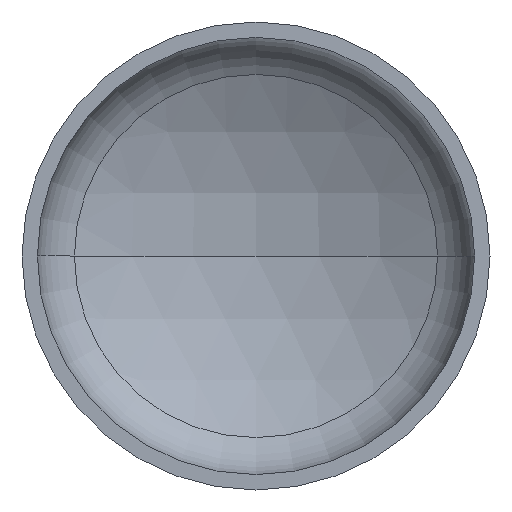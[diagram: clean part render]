
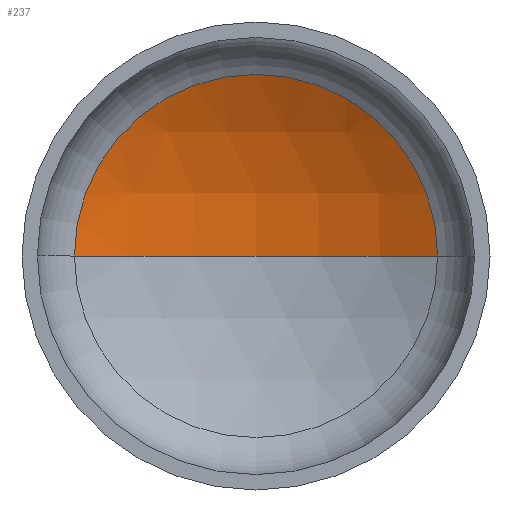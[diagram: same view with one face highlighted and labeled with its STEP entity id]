
A CAD part, front view. The second image highlights one B-rep face of the part: STEP entity #237.
In plain terms, the highlighted spherical face has radius 1120 mm.
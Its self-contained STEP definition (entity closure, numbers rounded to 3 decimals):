
#7 = DIRECTION ( 'NONE',  ( 0., 0., -1. ) ) ;
#21 = AXIS2_PLACEMENT_3D ( 'NONE', #110, #7, #31 ) ;
#31 = DIRECTION ( 'NONE',  ( -1., 0., 0. ) ) ;
#32 = AXIS2_PLACEMENT_3D ( 'NONE', #123, #121, #141 ) ;
#33 = AXIS2_PLACEMENT_3D ( 'NONE', #168, #187, #186 ) ;
#35 = AXIS2_PLACEMENT_3D ( 'NONE', #195, #193, #191 ) ;
#77 = ORIENTED_EDGE ( 'NONE', *, *, #98, .F. ) ;
#86 = EDGE_CURVE ( 'NONE', #380, #136, #215, .T. ) ;
#88 = ORIENTED_EDGE ( 'NONE', *, *, #86, .T. ) ;
#92 = EDGE_CURVE ( 'NONE', #265, #380, #210, .T. ) ;
#98 = EDGE_CURVE ( 'NONE', #265, #136, #126, .T. ) ;
#109 = CARTESIAN_POINT ( 'NONE',  ( 543.293, 328.011, 0. ) ) ;
#110 = CARTESIAN_POINT ( 'NONE',  ( 0., -651.394, 0. ) ) ;
#121 = DIRECTION ( 'NONE',  ( 0., 0., 1. ) ) ;
#123 = CARTESIAN_POINT ( 'NONE',  ( 0., -651.394, 0. ) ) ;
#126 = CIRCLE ( 'NONE', #32, 1120. ) ;
#136 = VERTEX_POINT ( 'NONE', #139 ) ;
#139 = CARTESIAN_POINT ( 'NONE',  ( -543.293, 328.011, 0. ) ) ;
#141 = DIRECTION ( 'NONE',  ( 1., 0., 0. ) ) ;
#165 = CARTESIAN_POINT ( 'NONE',  ( 0., 468.606, 0. ) ) ;
#168 = CARTESIAN_POINT ( 'NONE',  ( 0., -651.394, 0. ) ) ;
#186 = DIRECTION ( 'NONE',  ( -1., 0., 0. ) ) ;
#187 = DIRECTION ( 'NONE',  ( 0., 0., -1. ) ) ;
#191 = DIRECTION ( 'NONE',  ( 1., 0., 0. ) ) ;
#193 = DIRECTION ( 'NONE',  ( 0., -1., 0. ) ) ;
#195 = CARTESIAN_POINT ( 'NONE',  ( 0., 328.011, 0. ) ) ;
#210 = CIRCLE ( 'NONE', #33, 1120. ) ;
#215 = CIRCLE ( 'NONE', #35, 543.293 ) ;
#237 = ADVANCED_FACE ( 'NONE', ( #316 ), #398, .F. ) ;
#265 = VERTEX_POINT ( 'NONE', #165 ) ;
#268 = EDGE_LOOP ( 'NONE', ( #77, #278, #88 ) ) ;
#278 = ORIENTED_EDGE ( 'NONE', *, *, #92, .T. ) ;
#316 = FACE_OUTER_BOUND ( 'NONE', #268, .T. ) ;
#380 = VERTEX_POINT ( 'NONE', #109 ) ;
#398 = SPHERICAL_SURFACE ( 'NONE', #21, 1120. ) ;
